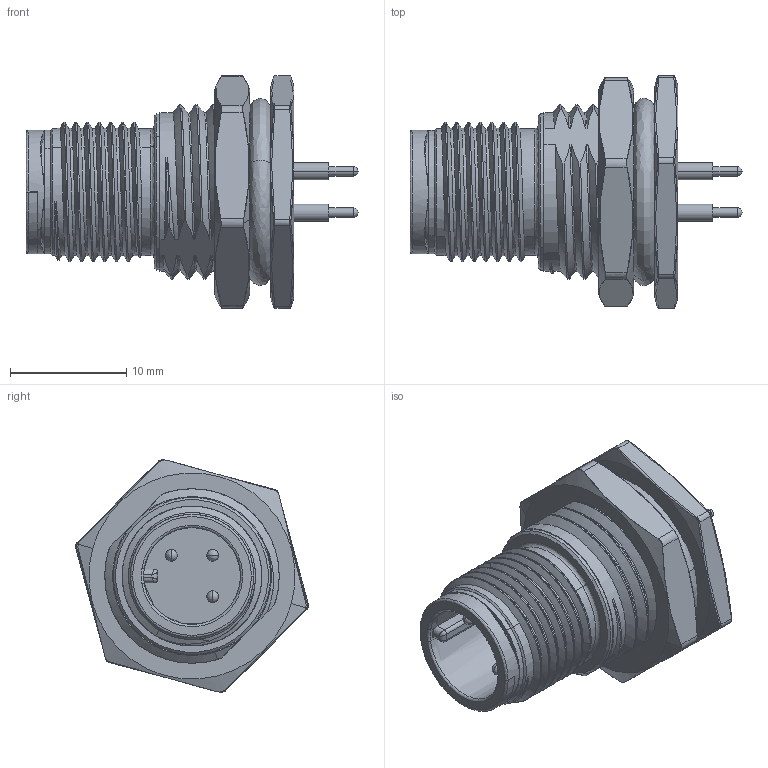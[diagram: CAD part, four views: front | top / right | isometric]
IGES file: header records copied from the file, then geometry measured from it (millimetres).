
Start section:  PTC IGES file: m12a-03pmmp-sf8001_sw0001.igs
Global section: file name: m12a-03pmmp-sf8001_sw0001.igs; native system: Creo Parametric by Parametric Technology Corporation; preprocessor: 2013050; author: ks7709; organization: Unknown; date: 20160625.153103; units: millimetre
Bounding box: 28.5 x 19.98 x 19.94 mm (x, y, z)
Surface area: 2665.4 mm2 (no closed solid volume)
Topology: 0 solids, 0 shells, 519 faces, 2598 edges, 2586 vertices
Faces by surface type: bspline 260, revolution 179, extrusion 80
